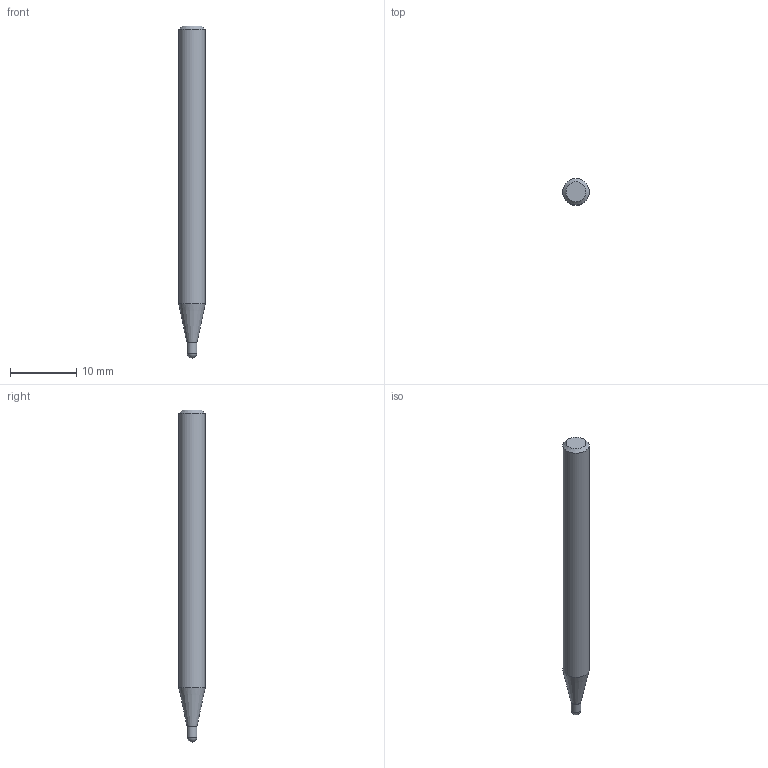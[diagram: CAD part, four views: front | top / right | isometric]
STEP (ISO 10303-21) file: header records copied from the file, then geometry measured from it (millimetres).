
FILE_DESCRIPTION((''),'2;1');
FILE_NAME('C:\Users\nsx150\AppData\Local\Temp\Mastercam 2021\98T1Q6BTT1\TEMP.step','2021-10-21T14:55:24',(''),(''),'STEP Write','Mastercam 2021 ... CNC Software, Inc.','');
FILE_SCHEMA(('AUTOMOTIVE_DESIGN'));
Length unit declared in the file: millimetre
Products named in the file (1): None
Bounding box: 4 x 4 x 50 mm (x, y, z)
Volume: 565 mm3; surface area: 600.4 mm2
Topology: 2 solids, 2 shells, 8 faces, 12 edges, 7 vertices
Faces by surface type: plane 3, cylinder 2, cone 2, sphere 1
Full cylindrical faces by diameter (mm): 1.5 x1, 4 x1
Entity records: 190 total; most frequent: DIRECTION 32, CARTESIAN_POINT 22, AXIS2_PLACEMENT_3D 16, ORIENTED_EDGE 12, EDGE_LOOP 12, STYLED_ITEM 11, ADVANCED_FACE 8, VERTEX_POINT 6
